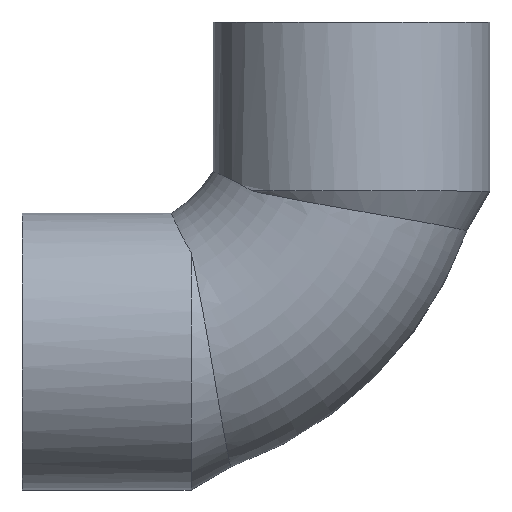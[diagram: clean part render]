
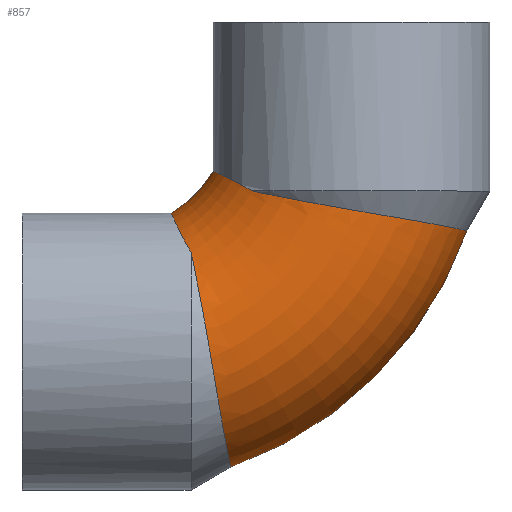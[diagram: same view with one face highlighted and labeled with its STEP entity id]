
A CAD part, top view. The second image highlights one B-rep face of the part: STEP entity #857.
In plain terms, the highlighted toroidal (fillet/blend) face has major radius 35 mm and minor radius 17.5 mm.
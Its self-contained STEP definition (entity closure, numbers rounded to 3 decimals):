
#161=CARTESIAN_POINT('',(17.301,-49.567,0.));
#162=VERTEX_POINT('',#161);
#163=CARTESIAN_POINT('',(49.567,-17.301,0.));
#164=VERTEX_POINT('',#163);
#165=CARTESIAN_POINT('',(0.0,0.0,0.));
#166=DIRECTION('',(0.0,0.0,1.0));
#167=DIRECTION('',(1.0,0.0,0.0));
#168=AXIS2_PLACEMENT_3D('',#165,#166,#167);
#169=CIRCLE('',#168,52.5);
#170=EDGE_CURVE('',#162,#164,#169,.T.);
#191=CARTESIAN_POINT('',(9.178,-14.9,0.));
#192=VERTEX_POINT('',#191);
#206=CARTESIAN_POINT('',(14.9,-9.178,0.));
#207=VERTEX_POINT('',#206);
#208=CARTESIAN_POINT('',(0.0,0.0,0.));
#209=DIRECTION('',(0.0,0.0,-1.0));
#210=DIRECTION('',(1.0,0.0,0.0));
#211=AXIS2_PLACEMENT_3D('',#208,#209,#210);
#212=CIRCLE('',#211,17.5);
#213=EDGE_CURVE('',#207,#192,#212,.T.);
#321=CARTESIAN_POINT('',(11.875,-20.225,13.15));
#322=VERTEX_POINT('',#321);
#323=CARTESIAN_POINT('',(11.875,-20.225,13.15));
#324=CARTESIAN_POINT('',(12.224,-21.843,14.53));
#325=CARTESIAN_POINT('',(12.601,-23.692,15.615));
#326=CARTESIAN_POINT('',(13.374,-27.716,17.114));
#327=CARTESIAN_POINT('',(13.766,-29.873,17.504));
#328=CARTESIAN_POINT('',(14.522,-34.172,17.496));
#329=CARTESIAN_POINT('',(14.88,-36.282,17.117));
#330=CARTESIAN_POINT('',(15.556,-40.261,15.624));
#331=CARTESIAN_POINT('',(15.87,-42.097,14.526));
#332=CARTESIAN_POINT('',(16.442,-45.317,11.685));
#333=CARTESIAN_POINT('',(16.695,-46.66,9.956));
#334=CARTESIAN_POINT('',(17.098,-48.668,6.022));
#335=CARTESIAN_POINT('',(17.239,-49.292,3.846));
#336=CARTESIAN_POINT('',(17.295,-49.543,1.072));
#337=CARTESIAN_POINT('',(17.301,-49.567,0.536));
#338=CARTESIAN_POINT('',(17.301,-49.567,0.));
#339=B_SPLINE_CURVE_WITH_KNOTS('',3,(#323,#324,#325,#326,#327,#328,#329,#330,#331,#332,#333,#334,#335,#336,#337,#338),.UNSPECIFIED.,.F.,.U.,(4,2,2,2,2,2,2,4),(-8.185,-7.538,-6.876,-6.229,-5.586,-4.929,-4.255,-4.093),.UNSPECIFIED.);
#340=EDGE_CURVE('',#322,#162,#339,.T.);
#366=CARTESIAN_POINT('',(9.178,-14.9,0.));
#367=CARTESIAN_POINT('',(9.178,-14.9,1.493));
#368=CARTESIAN_POINT('',(9.255,-15.077,2.982));
#369=CARTESIAN_POINT('',(9.638,-15.94,6.559));
#370=CARTESIAN_POINT('',(10.027,-16.817,8.558));
#371=CARTESIAN_POINT('',(10.96,-18.646,11.362));
#372=CARTESIAN_POINT('',(11.371,-19.41,12.309));
#373=CARTESIAN_POINT('',(11.875,-20.225,13.15));
#374=B_SPLINE_CURVE_WITH_KNOTS('',3,(#366,#367,#368,#369,#370,#371,#372,#373),.UNSPECIFIED.,.F.,.U.,(4,2,2,4),(-1.484,-1.038,-0.383,0.0),.UNSPECIFIED.);
#375=EDGE_CURVE('',#192,#322,#374,.T.);
#724=CARTESIAN_POINT('',(20.225,-11.875,13.15));
#725=VERTEX_POINT('',#724);
#726=CARTESIAN_POINT('',(20.225,-11.875,13.15));
#727=CARTESIAN_POINT('',(19.964,-11.714,12.881));
#728=CARTESIAN_POINT('',(19.709,-11.562,12.601));
#729=CARTESIAN_POINT('',(18.129,-10.656,10.761));
#730=CARTESIAN_POINT('',(16.921,-10.09,8.838));
#731=CARTESIAN_POINT('',(15.476,-9.428,4.947));
#732=CARTESIAN_POINT('',(15.093,-9.263,3.221));
#733=CARTESIAN_POINT('',(14.919,-9.186,0.975));
#734=CARTESIAN_POINT('',(14.9,-9.178,0.487));
#735=CARTESIAN_POINT('',(14.9,-9.178,0.));
#736=B_SPLINE_CURVE_WITH_KNOTS('',3,(#726,#727,#728,#729,#730,#731,#732,#733,#734,#735),.UNSPECIFIED.,.F.,.U.,(4,2,2,2,4),(-3.018,-2.882,-2.156,-1.63,-1.484),.UNSPECIFIED.);
#737=EDGE_CURVE('',#725,#207,#736,.T.);
#777=CARTESIAN_POINT('',(49.567,-17.301,0.));
#778=CARTESIAN_POINT('',(49.567,-17.301,1.73));
#779=CARTESIAN_POINT('',(49.316,-17.243,3.454));
#780=CARTESIAN_POINT('',(48.155,-16.994,7.308));
#781=CARTESIAN_POINT('',(47.073,-16.773,9.345));
#782=CARTESIAN_POINT('',(44.167,-16.232,12.894));
#783=CARTESIAN_POINT('',(42.369,-15.918,14.361));
#784=CARTESIAN_POINT('',(38.267,-15.216,16.539));
#785=CARTESIAN_POINT('',(35.997,-14.834,17.209));
#786=CARTESIAN_POINT('',(31.271,-14.016,17.645));
#787=CARTESIAN_POINT('',(28.857,-13.585,17.382));
#788=CARTESIAN_POINT('',(24.243,-12.712,15.928));
#789=CARTESIAN_POINT('',(22.082,-12.276,14.735));
#790=CARTESIAN_POINT('',(20.225,-11.875,13.15));
#791=B_SPLINE_CURVE_WITH_KNOTS('',3,(#777,#778,#779,#780,#781,#782,#783,#784,#785,#786,#787,#788,#789,#790),.UNSPECIFIED.,.F.,.U.,(4,2,2,2,2,2,4),(-4.093,-3.572,-2.883,-2.186,-1.474,-0.742,0.0),.UNSPECIFIED.);
#792=EDGE_CURVE('',#164,#725,#791,.T.);
#844=CARTESIAN_POINT('',(0.0,0.0,0.0));
#845=DIRECTION('',(0.0,0.0,1.0));
#846=DIRECTION('',(1.0,0.0,0.0));
#847=AXIS2_PLACEMENT_3D('',#844,#845,#846);
#848=TOROIDAL_SURFACE('',#847,35.0,17.5);
#849=ORIENTED_EDGE('',*,*,#170,.T.);
#850=ORIENTED_EDGE('',*,*,#792,.T.);
#851=ORIENTED_EDGE('',*,*,#737,.T.);
#852=ORIENTED_EDGE('',*,*,#213,.T.);
#853=ORIENTED_EDGE('',*,*,#375,.T.);
#854=ORIENTED_EDGE('',*,*,#340,.T.);
#855=EDGE_LOOP('',(#849,#850,#851,#852,#853,#854));
#856=FACE_OUTER_BOUND('',#855,.T.);
#857=ADVANCED_FACE('',(#856),#848,.T.);
